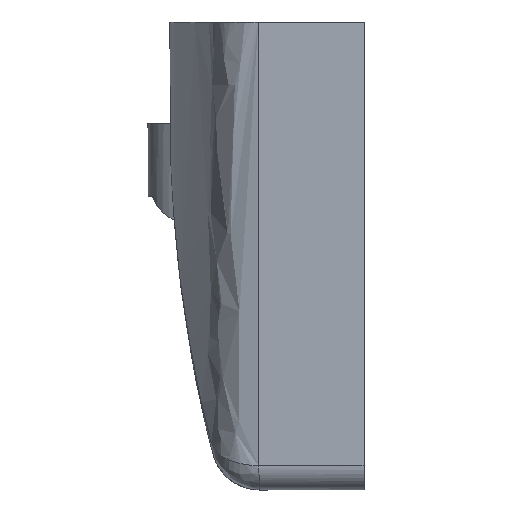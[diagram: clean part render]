
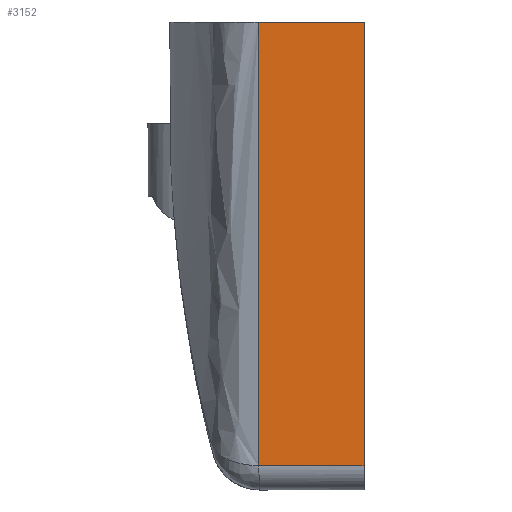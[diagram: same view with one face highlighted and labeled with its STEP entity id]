
A CAD part, front view. The second image highlights one B-rep face of the part: STEP entity #3152.
In plain terms, the highlighted planar face has unit normal (0, -1, 0).
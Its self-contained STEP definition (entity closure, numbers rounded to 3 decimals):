
#171 = B_SPLINE_CURVE_WITH_KNOTS ( 'NONE', 3,
 ( #443, #449, #450, #451 ),
 .UNSPECIFIED., .F., .F.,
 ( 4, 4 ),
 ( 0., 0. ),
 .UNSPECIFIED. ) ;
#230 = ORIENTED_EDGE ( 'NONE', *, *, #2218, .F. ) ;
#234 = ORIENTED_EDGE ( 'NONE', *, *, #2231, .F. ) ;
#236 = ORIENTED_EDGE ( 'NONE', *, *, #2217, .T. ) ;
#268 = CARTESIAN_POINT ( 'NONE',  ( -10.88, -19.849, 40. ) ) ;
#270 = CARTESIAN_POINT ( 'NONE',  ( -10.88, -19.849, -5.697 ) ) ;
#278 = CARTESIAN_POINT ( 'NONE',  ( -10.88, -19.849, -5.7 ) ) ;
#443 = CARTESIAN_POINT ( 'NONE',  ( -10.88, -19.849, -5.7 ) ) ;
#444 = DIRECTION ( 'NONE',  ( 0., 0., 1. ) ) ;
#445 = LINE ( 'NONE', #446, #957 ) ;
#446 = CARTESIAN_POINT ( 'NONE',  ( -10.88, -19.849, -8.2 ) ) ;
#447 = DIRECTION ( 'NONE',  ( 0., 0., -1. ) ) ;
#449 = CARTESIAN_POINT ( 'NONE',  ( -10.88, -19.849, -5.699 ) ) ;
#450 = CARTESIAN_POINT ( 'NONE',  ( -10.88, -19.849, -5.698 ) ) ;
#451 = CARTESIAN_POINT ( 'NONE',  ( -10.88, -19.849, -5.697 ) ) ;
#514 = LINE ( 'NONE', #518, #2157 ) ;
#518 = CARTESIAN_POINT ( 'NONE',  ( -20., -19.849, 40. ) ) ;
#519 = DIRECTION ( 'NONE',  ( 1., 0., 0. ) ) ;
#752 = LINE ( 'NONE', #761, #2168 ) ;
#761 = CARTESIAN_POINT ( 'NONE',  ( -20., -19.849, -5.7 ) ) ;
#762 = DIRECTION ( 'NONE',  ( 1., 0., 0. ) ) ;
#763 = LINE ( 'NONE', #764, #2173 ) ;
#764 = CARTESIAN_POINT ( 'NONE',  ( 0., -19.849, 40. ) ) ;
#957 = VECTOR ( 'NONE', #447, 1000. ) ;
#1039 = CARTESIAN_POINT ( 'NONE',  ( -20., -19.849, 40. ) ) ;
#1047 = FACE_OUTER_BOUND ( 'NONE', #3419, .T. ) ;
#1048 = PLANE ( 'NONE',  #3081 ) ;
#1050 = DIRECTION ( 'NONE',  ( 0., -1., 0. ) ) ;
#1051 = DIRECTION ( 'NONE',  ( 0., 0., -1. ) ) ;
#1109 = CARTESIAN_POINT ( 'NONE',  ( 0., -19.849, -5.7 ) ) ;
#2157 = VECTOR ( 'NONE', #519, 1000. ) ;
#2168 = VECTOR ( 'NONE', #762, 1000. ) ;
#2173 = VECTOR ( 'NONE', #444, 1000. ) ;
#2214 = EDGE_CURVE ( 'NONE', #3050, #3452, #752, .T. ) ;
#2216 = EDGE_CURVE ( 'NONE', #3452, #3037, #763, .T. ) ;
#2217 = EDGE_CURVE ( 'NONE', #3038, #3041, #445, .T. ) ;
#2218 = EDGE_CURVE ( 'NONE', #3050, #3041, #171, .T. ) ;
#2231 = EDGE_CURVE ( 'NONE', #3038, #3037, #514, .T. ) ;
#2693 = CARTESIAN_POINT ( 'NONE',  ( 0., -19.849, 40. ) ) ;
#3037 = VERTEX_POINT ( 'NONE', #2693 ) ;
#3038 = VERTEX_POINT ( 'NONE', #268 ) ;
#3041 = VERTEX_POINT ( 'NONE', #270 ) ;
#3050 = VERTEX_POINT ( 'NONE', #278 ) ;
#3081 = AXIS2_PLACEMENT_3D ( 'NONE', #1039, #1050, #1051 ) ;
#3152 = ADVANCED_FACE ( 'NONE', ( #1047 ), #1048, .T. ) ;
#3357 = ORIENTED_EDGE ( 'NONE', *, *, #2216, .T. ) ;
#3399 = ORIENTED_EDGE ( 'NONE', *, *, #2214, .T. ) ;
#3419 = EDGE_LOOP ( 'NONE', ( #3399, #3357, #234, #236, #230 ) ) ;
#3452 = VERTEX_POINT ( 'NONE', #1109 ) ;
